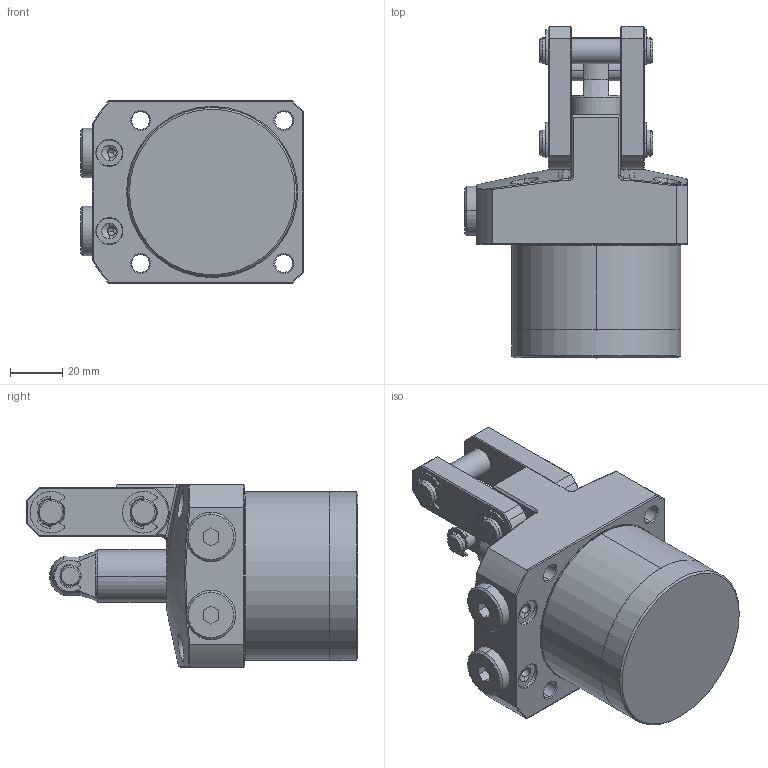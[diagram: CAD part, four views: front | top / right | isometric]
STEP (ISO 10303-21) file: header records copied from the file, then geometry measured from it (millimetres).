
FILE_DESCRIPTION(/* description */ (''),/* implementation_level */ '2;1');
FILE_NAME(/* name */ 'KTPC65-R.stp',/* time_stamp */ '2022-11-18T15:22:27+08:00',/* author */ (''),/* organization */ (''),/* preprocessor_version */ 'ST-DEVELOPER v16.7',/* originating_system */ 'SIEMENS PLM Software NX 12.0',/* authorisation */ '');
FILE_SCHEMA (('AP203_CONFIGURATION_CONTROLLED_3D_DESIGN_OF_MECHANICAL_PARTS_AND_ASSEMBLIES_MIM_LF { 1 0 10303 403 2 1 2}'));
Length unit declared in the file: millimetre
Products named in the file (10): KTPC65-R-01; KTPC65-R-08; KTPC65-R-02; KTPC65-R-06; KTPC65-R-07; KTPC65-R-04; KTPC65-R-03; KTPC65-R-05; KTPC65-R-09; LKA0650-CR_step
Assembly tree (16 placements, depth 2):
  LKA0650-CR_step
    KTPC65-R-09  x4
    KTPC65-R-05  x2
    KTPC65-R-03
    KTPC65-R-04  x2
    KTPC65-R-07  x2
    KTPC65-R-06
    KTPC65-R-02
    KTPC65-R-08  x2
    KTPC65-R-01
Bounding box: 85.5 x 127.5 x 70 mm (x, y, z)
Volume: 436722.5 mm3; surface area: 63338.7 mm2
Topology: 16 solids, 16 shells, 565 faces, 1347 edges, 842 vertices
Faces by surface type: cylinder 236, plane 177, cone 71, torus 60, bspline 19, sphere 2
Full cylindrical faces by diameter (mm): 65 x1
Entity records: 12677 total; most frequent: CARTESIAN_POINT 3105, DIRECTION 1811, ORIENTED_EDGE 1654, EDGE_CURVE 827, AXIS2_PLACEMENT_3D 735, VERTEX_POINT 512, EDGE_LOOP 403, CIRCLE 379
